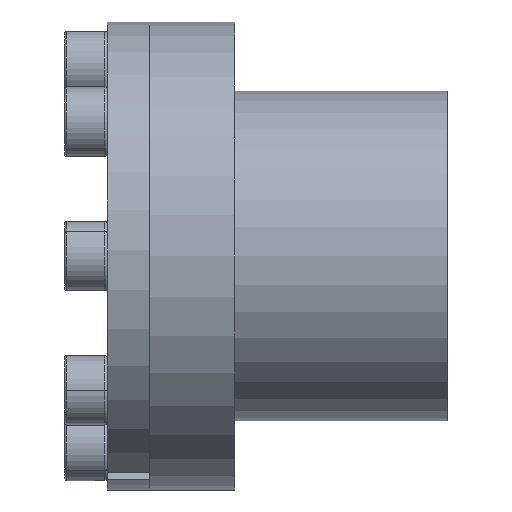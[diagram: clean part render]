
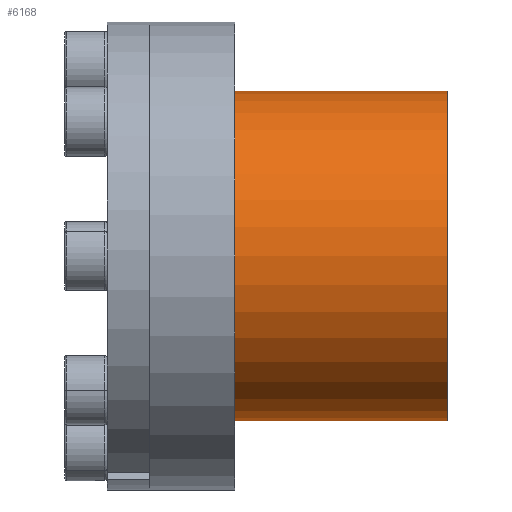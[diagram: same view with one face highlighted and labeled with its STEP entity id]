
A CAD part, front view. The second image highlights one B-rep face of the part: STEP entity #6168.
In plain terms, the highlighted cylindrical face has radius 31 mm (diameter 62 mm), a partial arc.
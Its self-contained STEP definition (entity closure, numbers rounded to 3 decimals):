
#346 = EDGE_LOOP ( 'NONE', ( #3661, #3082, #2635, #2014 ) ) ;
#569 = VERTEX_POINT ( 'NONE', #715 ) ;
#677 = VERTEX_POINT ( 'NONE', #1737 ) ;
#715 = CARTESIAN_POINT ( 'NONE',  ( -9.229, 0., -31. ) ) ;
#776 = CARTESIAN_POINT ( 'NONE',  ( -9.229, 0., 0. ) ) ;
#783 = LINE ( 'NONE', #5068, #3551 ) ;
#1202 = VERTEX_POINT ( 'NONE', #1944 ) ;
#1272 = EDGE_CURVE ( 'NONE', #569, #677, #5008, .T. ) ;
#1337 = DIRECTION ( 'NONE',  ( 0., 0., 1. ) ) ;
#1654 = EDGE_CURVE ( 'NONE', #6912, #569, #783, .T. ) ;
#1737 = CARTESIAN_POINT ( 'NONE',  ( -9.229, 0., 31. ) ) ;
#1865 = CIRCLE ( 'NONE', #3572, 31. ) ;
#1944 = CARTESIAN_POINT ( 'NONE',  ( 30.771, 0., 31. ) ) ;
#2014 = ORIENTED_EDGE ( 'NONE', *, *, #1272, .F. ) ;
#2450 = CARTESIAN_POINT ( 'NONE',  ( -33.229, 0., 0. ) ) ;
#2571 = CARTESIAN_POINT ( 'NONE',  ( 30.771, 0., 0. ) ) ;
#2596 = CARTESIAN_POINT ( 'NONE',  ( -33.229, 0., 31. ) ) ;
#2635 = ORIENTED_EDGE ( 'NONE', *, *, #4506, .T. ) ;
#3082 = ORIENTED_EDGE ( 'NONE', *, *, #4207, .T. ) ;
#3118 = DIRECTION ( 'NONE',  ( 0., 0., 1. ) ) ;
#3369 = AXIS2_PLACEMENT_3D ( 'NONE', #776, #4648, #1337 ) ;
#3426 = DIRECTION ( 'NONE',  ( -1., 0., 0. ) ) ;
#3551 = VECTOR ( 'NONE', #3426, 1000. ) ;
#3572 = AXIS2_PLACEMENT_3D ( 'NONE', #2571, #6421, #3118 ) ;
#3661 = ORIENTED_EDGE ( 'NONE', *, *, #1654, .F. ) ;
#4207 = EDGE_CURVE ( 'NONE', #6912, #1202, #1865, .T. ) ;
#4217 = AXIS2_PLACEMENT_3D ( 'NONE', #2450, #5745, #6288 ) ;
#4506 = EDGE_CURVE ( 'NONE', #1202, #677, #7136, .T. ) ;
#4648 = DIRECTION ( 'NONE',  ( -1., 0., 0. ) ) ;
#4851 = FACE_OUTER_BOUND ( 'NONE', #346, .T. ) ;
#5008 = CIRCLE ( 'NONE', #3369, 31. ) ;
#5068 = CARTESIAN_POINT ( 'NONE',  ( -33.229, 0., -31. ) ) ;
#5651 = VECTOR ( 'NONE', #6447, 1000. ) ;
#5745 = DIRECTION ( 'NONE',  ( -1., 0., 0. ) ) ;
#6146 = CYLINDRICAL_SURFACE ( 'NONE', #4217, 31. ) ;
#6168 = ADVANCED_FACE ( 'NONE', ( #4851 ), #6146, .T. ) ;
#6181 = CARTESIAN_POINT ( 'NONE',  ( 30.771, 0., -31. ) ) ;
#6288 = DIRECTION ( 'NONE',  ( 0., 0., 1. ) ) ;
#6421 = DIRECTION ( 'NONE',  ( -1., 0., 0. ) ) ;
#6447 = DIRECTION ( 'NONE',  ( -1., 0., 0. ) ) ;
#6912 = VERTEX_POINT ( 'NONE', #6181 ) ;
#7136 = LINE ( 'NONE', #2596, #5651 ) ;
